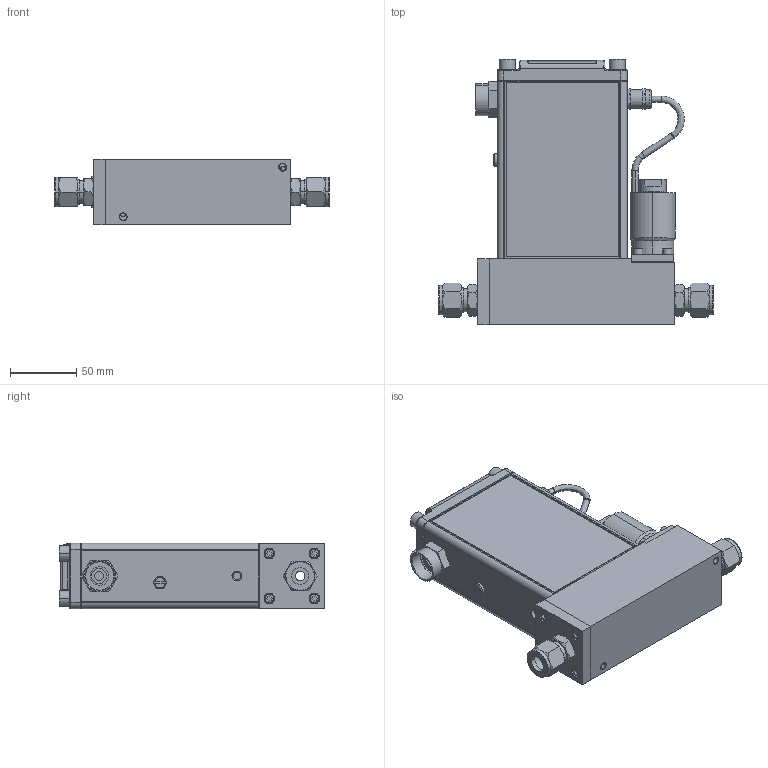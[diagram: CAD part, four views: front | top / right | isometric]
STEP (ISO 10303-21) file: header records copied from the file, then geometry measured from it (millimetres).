
FILE_DESCRIPTION (( 'STEP AP203' ), '1' );
FILE_NAME ('SLAMF51-S-1P-1-K-REVB.STEP', '2023-05-24T19:49:12', ( '' ), ( '' ), 'SwSTEP 2.0', 'SolidWorks 2020', '' );
FILE_SCHEMA (( 'CONFIG_CONTROL_DESIGN' ));
Length unit declared in the file: inch
Products named in the file (1): SLAMF51-S-1P-1-K-REVB
Bounding box: 206.92 x 199.98 x 49.5 mm (x, y, z)
Volume: 507482.2 mm3; surface area: 242604.8 mm2
Topology: 58 solids, 58 shells, 1213 faces, 2832 edges, 1780 vertices
Faces by surface type: plane 444, cylinder 423, cone 183, bspline 163
Entity records: 39059 total; most frequent: CARTESIAN_POINT 10957, DIRECTION 6044, ORIENTED_EDGE 5648, EDGE_CURVE 2824, AXIS2_PLACEMENT_3D 2383, VERTEX_POINT 1780, EDGE_LOOP 1438, CIRCLE 1332
